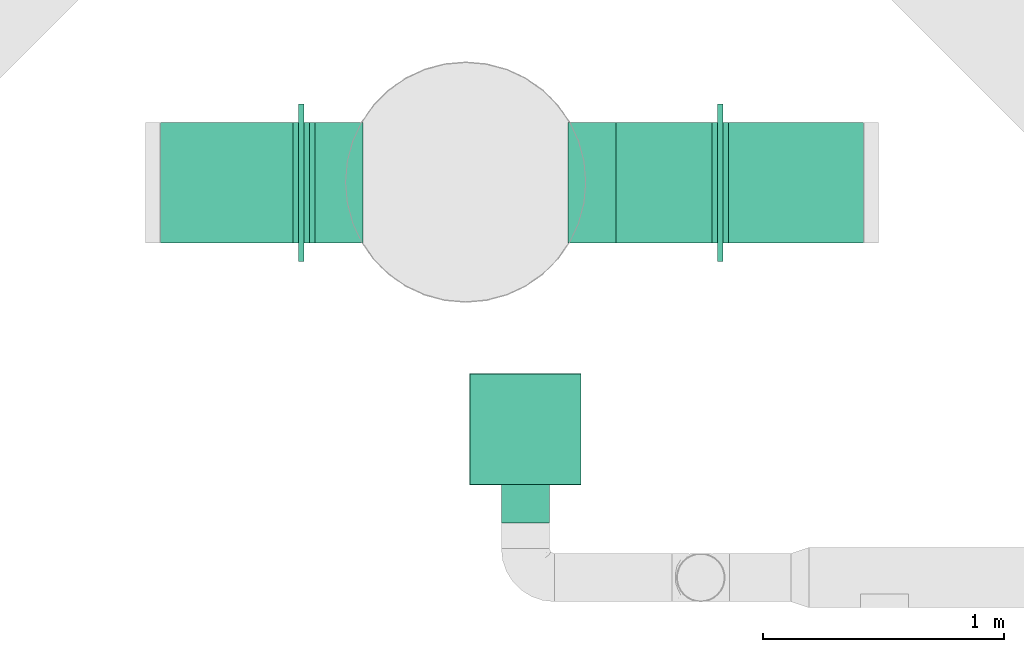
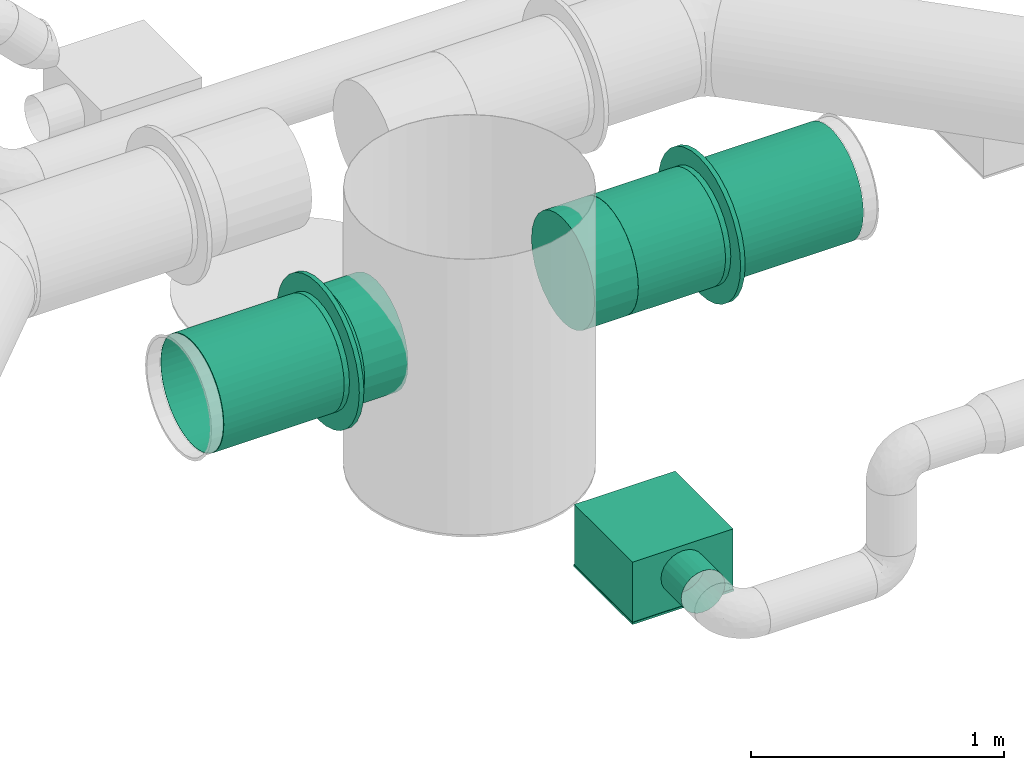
# One storey, part 9 of 31: 4 flow segments, 2 flow controllers, 2 flow fittings, 1 flow terminal.
"""IFC2X3 building model written with IfcOpenShell, lengths in millimetres."""

import ifcopenshell
import ifcopenshell.guid

model = None  # the IFC model being written
_history = None  # IfcOwnerHistory: only IFC2X3 demands one
_inside = {}  # id of a spatial element -> (the spatial element, [elements in it])
_under = {}  # id of a project, library or spatial element -> (it, [spatial elements below it])
_declared = {}  # id of a project -> (the project, [libraries it declares])
_typed = {}  # id of a type object -> (the type object, [elements of that type])
_made_of = {}  # id of a material, layer set ... -> (it, [elements and type objects made of it])


def new_model(schema):
    """Start an empty IFC model of exactly this schema.

    Asked for "IFC4X3", IfcOpenShell would pick the latest addendum, in which some entities
    have other attributes; the version numbers below select the first issue.
    IFC2X3 requires an IfcOwnerHistory on every rooted entity: one is made here for all.
    """
    global model, _history
    if schema == "IFC4X3":
        model = ifcopenshell.file(schema_version=(4, 3, 0, 0))
    else:
        model = ifcopenshell.file(schema=schema)
    _inside.clear()
    _under.clear()
    _declared.clear()
    _typed.clear()
    _made_of.clear()
    _history = None
    if model.schema == "IFC2X3":
        org = make("IfcOrganization", Name="unknown")
        user = make(
            "IfcPersonAndOrganization",
            ThePerson=make("IfcPerson", FamilyName="unknown"),
            TheOrganization=org,
        )
        app = make(
            "IfcApplication",
            ApplicationDeveloper=org,
            Version="unknown",
            ApplicationFullName="unknown",
            ApplicationIdentifier="unknown",
        )
        _history = make(
            "IfcOwnerHistory",
            OwningUser=user,
            OwningApplication=app,
            ChangeAction="ADDED",
            CreationDate=0,
        )
    return model


def make(cls, **values):
    """One entity of the class cls with the attributes given. An attribute that is None is left unset."""
    return model.create_entity(
        cls, **{name: value for name, value in values.items() if value is not None}
    )


def entity(cls, *values):
    """Any entity or typed value of the class cls, its attributes in the order of the schema. None: left unset."""
    e = model.create_entity(cls)
    for i, value in enumerate(values):
        if value is not None:
            e[i] = value
    return e


def rooted(cls, **values):
    """An entity with a GlobalId (a new one), such as an element, a storey or a relation."""
    return make(cls, GlobalId=ifcopenshell.guid.new(), OwnerHistory=_history, **values)


def si_unit(unit_type, name, prefix=None):
    """IfcSIUnit, for example si_unit("LENGTHUNIT", "METRE", prefix="MILLI")."""
    return make("IfcSIUnit", UnitType=unit_type, Prefix=prefix, Name=name)


def converted_unit(unit_type, name, factor, base, dimensions=None, offset=None):
    """IfcConversionBasedUnit, such as the inch: factor (a typed value) times the base unit."""
    return make(
        "IfcConversionBasedUnit"
        if offset is None
        else "IfcConversionBasedUnitWithOffset",
        ConversionOffset=offset,
        Dimensions=None
        if dimensions is None
        else entity("IfcDimensionalExponents", *dimensions),
        UnitType=unit_type,
        Name=name,
        ConversionFactor=make(
            "IfcMeasureWithUnit", ValueComponent=factor, UnitComponent=base
        ),
    )


def derived_unit(unit_type, elements):
    """IfcDerivedUnit: a product of units, each with its exponent."""
    return make(
        "IfcDerivedUnit",
        Elements=[
            make("IfcDerivedUnitElement", Unit=unit, Exponent=power)
            for unit, power in elements
        ],
        UnitType=unit_type,
    )


def assignment(units):
    """IfcUnitAssignment: the units of a project."""
    return None if units is None else make("IfcUnitAssignment", Units=units)


def point(xyz):
    """IfcCartesianPoint."""
    return None if xyz is None else make("IfcCartesianPoint", Coordinates=xyz)


def direction(xyz):
    """IfcDirection."""
    return None if xyz is None else make("IfcDirection", DirectionRatios=xyz)


def frame(location, z_axis=None, x_axis=None):
    """IfcAxis2Placement3D, a coordinate frame: its origin and axes. An axis left out is left unset."""
    return make(
        "IfcAxis2Placement3D",
        Location=point(location),
        Axis=direction(z_axis),
        RefDirection=direction(x_axis),
    )


def frame_2d(location, x_axis=None):
    """IfcAxis2Placement2D, a coordinate frame in the plane: its origin and x axis."""
    return make(
        "IfcAxis2Placement2D", Location=point(location), RefDirection=direction(x_axis)
    )


def origin_with_axes():
    """The frame at (0, 0, 0) with the z axis (0, 0, 1) and the x axis (1, 0, 0) written out."""
    return frame((0.0, 0.0, 0.0), z_axis=(0.0, 0.0, 1.0), x_axis=(1.0, 0.0, 0.0))


def origin_2d_with_axis():
    """The frame at (0, 0) in the plane with the x axis (1, 0) written out."""
    return frame_2d((0.0, 0.0), x_axis=(1.0, 0.0))


def place(relative_to, where):
    """IfcLocalPlacement: puts the frame where relative to a parent placement (None: the world)."""
    return make(
        "IfcLocalPlacement", PlacementRelTo=relative_to, RelativePlacement=where
    )


def context(
    kind, dimensions, precision=None, world=None, true_north=None, identifier=None
):
    """IfcGeometricRepresentationContext, for example the 3D "Model" context."""
    return make(
        "IfcGeometricRepresentationContext",
        ContextIdentifier=identifier,
        ContextType=kind,
        CoordinateSpaceDimension=dimensions,
        Precision=precision,
        WorldCoordinateSystem=world,
        TrueNorth=true_north,
    )


def subcontext(parent, identifier, kind, view, scale=None):
    """IfcGeometricRepresentationSubContext, for example "Body" below "Model"."""
    return make(
        "IfcGeometricRepresentationSubContext",
        ContextIdentifier=identifier,
        ContextType=kind,
        ParentContext=parent,
        TargetScale=scale,
        TargetView=view,
    )


def project(units=None, contexts=None):
    """IfcProject with its units and contexts."""
    return rooted(
        "IfcProject",
        Name="project",
        RepresentationContexts=contexts,
        UnitsInContext=assignment(units),
    )


def spatial(cls, under=None, at=None, **own):
    """A site, building, storey or space (cls), placed at a placement, below another one or the project."""
    s = rooted(cls, ObjectPlacement=at, **own)
    if under is not None:
        _under.setdefault(under.id(), (under, []))[1].append(s)
    return s


def profile(cls, at=None, kind="AREA", **sizes):
    """A parametric profile (cls). Its sizes go by their IFC names, for example OverallWidth=200.0."""
    return make(cls, ProfileType=kind, Position=at, **sizes)


def hollow_circle(**sizes):
    """IfcCircleHollowProfileDef."""
    return profile("IfcCircleHollowProfileDef", **sizes)


def extrude(swept, where, along, depth):
    """IfcExtrudedAreaSolid: the profile swept, set in the frame where, extruded along a direction by depth."""
    return make(
        "IfcExtrudedAreaSolid",
        SweptArea=swept,
        Position=where,
        ExtrudedDirection=direction(along),
        Depth=depth,
    )


def faces_of(points, faces, orient=None, outer=None):
    """IfcFace entities. A face is a list of loops; a loop is a list of indices into points, from 0.

    orient and outer hold one flag for each loop. By default every Orientation is true, the
    first loop of a face is its IfcFaceOuterBound and the others are IfcFaceBound.
    """
    made = []
    for i, loops in enumerate(faces):
        bounds = []
        for j, loop in enumerate(loops):
            is_outer = j == 0 if outer is None else outer[i][j]
            bounds.append(
                make(
                    "IfcFaceOuterBound" if is_outer else "IfcFaceBound",
                    Bound=make("IfcPolyLoop", Polygon=[points[k] for k in loop]),
                    Orientation=True if orient is None else orient[i][j],
                )
            )
        made.append(make("IfcFace", Bounds=bounds))
    return made


def open_shell(faces, orient=None, outer=None):
    """The faces of one IfcOpenShell. surface_model builds it on its shared points."""
    return ("IfcOpenShell", faces, orient, outer)


def surface_model(cls, points, shells):
    """IfcFaceBasedSurfaceModel or IfcShellBasedSurfaceModel (cls): surfaces that need not close."""
    shared = [point(p) for p in points]
    made = [make(c, CfsFaces=faces_of(shared, fs, o, b)) for c, fs, o, b in shells]
    if cls == "IfcFaceBasedSurfaceModel":
        return make(cls, FbsmFaces=made)
    return make(cls, SbsmBoundary=made)


def shape(context_of_items, identifier, shape_type, items):
    """IfcShapeRepresentation: the items that make up one representation, for example the "Body"."""
    return make(
        "IfcShapeRepresentation",
        ContextOfItems=context_of_items,
        RepresentationIdentifier=identifier,
        RepresentationType=shape_type,
        Items=items,
    )


def source(mapping_origin, context_of_items, identifier, shape_type, items):
    """IfcRepresentationMap: a shape defined once, which mapped items show again and again."""
    return make(
        "IfcRepresentationMap",
        MappingOrigin=mapping_origin,
        MappedRepresentation=shape(context_of_items, identifier, shape_type, items),
    )


def transform(
    local_origin,
    x_axis=None,
    y_axis=None,
    z_axis=None,
    scale=None,
    scale2=None,
    scale3=None,
    uniform=True,
):
    """IfcCartesianTransformationOperator3D, or its non-uniform kind. x_axis, y_axis, z_axis: its Axis1, 2, 3."""
    if uniform:
        return make(
            "IfcCartesianTransformationOperator3D",
            Axis1=direction(x_axis),
            Axis2=direction(y_axis),
            LocalOrigin=point(local_origin),
            Scale=scale,
            Axis3=direction(z_axis),
        )
    return make(
        "IfcCartesianTransformationOperator3DnonUniform",
        Axis1=direction(x_axis),
        Axis2=direction(y_axis),
        LocalOrigin=point(local_origin),
        Scale=scale,
        Axis3=direction(z_axis),
        Scale2=scale2,
        Scale3=scale3,
    )


def mapped(mapping_source, mapping_target):
    """IfcMappedItem: shows the shape of a source again, moved by a transform."""
    return make(
        "IfcMappedItem", MappingSource=mapping_source, MappingTarget=mapping_target
    )


def made_of(thing, what):
    """Note that an element or type object is made of a material, layer set ...; save() writes the relation."""
    if what is not None:
        _made_of.setdefault(what.id(), (what, []))[1].append(thing)
    return thing


def type_object(cls, material=None, **own):
    """A type object (cls), such as IfcWallType, which elements share."""
    return made_of(rooted(cls, **own), material)


def element(
    cls,
    number,
    at=None,
    inside=None,
    cuts=None,
    type_object=None,
    material=None,
    context=None,
    identifier="Body",
    shape_type=None,
    held_by="IfcProductDefinitionShape",
    body=None,
    shapes=None,
    **own,
):
    """One element of the class cls, such as IfcWall. Its Tag is "e" and its number.

    at: its placement. inside: the storey or other place that contains it. cuts: it is an
    opening in that element (IfcRelVoidsElement). A single representation is given by context,
    identifier, shape_type and body (its items); several are given by shapes. held_by: the class
    of the entity that holds the representations. save() writes the other relations.
    """
    e = rooted(cls, Tag="e%d" % number, ObjectPlacement=at, **own)
    if body is not None:
        shapes = [shape(context, identifier, shape_type, body)]
    if shapes is not None:
        e.Representation = make(held_by, Representations=shapes)
    if inside is not None:
        _inside.setdefault(inside.id(), (inside, []))[1].append(e)
    if cuts is not None:
        rooted(
            "IfcRelVoidsElement", RelatingBuildingElement=cuts, RelatedOpeningElement=e
        )
    if type_object is not None:
        _typed.setdefault(type_object.id(), (type_object, []))[1].append(e)
    return made_of(e, material)


def aggregate(whole, parts):
    """IfcRelAggregates: a whole, such as a stair, and the parts it consists of."""
    return rooted("IfcRelAggregates", RelatingObject=whole, RelatedObjects=parts)


def save(model, path):
    """Write the relations noted so far, then the file.

    IfcRelAggregates (storeys below a building ...), IfcRelContainedInSpatialStructure (elements
    in a storey), IfcRelDefinesByType, IfcRelAssociatesMaterial and IfcRelDeclares: one each for
    every whole, place, type object, material and project.
    """
    for whole, parts in _under.values():
        aggregate(whole, parts)
    for where, things in _inside.values():
        rooted(
            "IfcRelContainedInSpatialStructure",
            RelatedElements=things,
            RelatingStructure=where,
        )
    for kind, things in _typed.values():
        rooted("IfcRelDefinesByType", RelatedObjects=things, RelatingType=kind)
    for what, things in _made_of.values():
        rooted("IfcRelAssociatesMaterial", RelatedObjects=things, RelatingMaterial=what)
    for by, libraries in _declared.values():
        rooted("IfcRelDeclares", RelatingContext=by, RelatedDefinitions=libraries)
    model.write(path)


model = new_model("IFC2X3")

# Units and contexts
model_context = context("Model", 3, precision=0.01, world=frame((0.0, 4.29681676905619e-09, 0.0)), true_north=direction((4.01073788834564e-13, 1.0)))
plan_context = context("Plan", 3, precision=0.01, world=frame((0.0, 4.29681676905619e-09, 0.0)), true_north=direction((4.01073788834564e-13, 1.0)))
body_context = subcontext(model_context, "Body", "Model", "MODEL_VIEW")
ifc_project = project(units=[converted_unit("PLANEANGLEUNIT", "DEGREE", entity("IfcPositiveLengthMeasure", 0.0174532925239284), si_unit("PLANEANGLEUNIT", "RADIAN"), dimensions=[0, 0, 0, 0, 0, 0, 0]), si_unit("AREAUNIT", "SQUARE_METRE"), si_unit("LENGTHUNIT", "METRE", prefix="MILLI"), si_unit("MASSUNIT", "GRAM", prefix="KILO"), si_unit("POWERUNIT", "WATT"), si_unit("PRESSUREUNIT", "PASCAL", prefix="KILO"), si_unit("FORCEUNIT", "NEWTON", prefix="KILO"), si_unit("ELECTRICVOLTAGEUNIT", "VOLT"), si_unit("ELECTRICCURRENTUNIT", "AMPERE"), si_unit("THERMODYNAMICTEMPERATUREUNIT", "DEGREE_CELSIUS"), si_unit("TIMEUNIT", "SECOND"), si_unit("VOLUMEUNIT", "CUBIC_METRE"), derived_unit("LINEARVELOCITYUNIT", [(si_unit("LENGTHUNIT", "METRE"), 1), (si_unit("TIMEUNIT", "SECOND"), -1)]), derived_unit("VOLUMETRICFLOWRATEUNIT", [(si_unit("VOLUMEUNIT", "CUBIC_METRE"), 1), (si_unit("TIMEUNIT", "SECOND"), -1)]), derived_unit("THERMALTRANSMITTANCEUNIT", [(si_unit("POWERUNIT", "WATT"), 1), (si_unit("THERMODYNAMICTEMPERATUREUNIT", "KELVIN"), -1), (si_unit("AREAUNIT", "SQUARE_METRE"), -1)]), derived_unit("SOUNDPRESSUREUNIT", [(si_unit("PRESSUREUNIT", "PASCAL"), 1)])], contexts=[model_context, plan_context])

# Site, building, storey
site_placement = place(None, frame((0.0, -4.29681676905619e-09, 0.0), z_axis=(0.0, 0.0, 1.0), x_axis=(1.0, 0.0, 0.0)))
site = spatial("IfcSite", under=ifc_project, at=site_placement, CompositionType="ELEMENT")
building_placement = place(site_placement, frame((0.0, 4.29681676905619e-09, 0.0), z_axis=(0.0, 0.0, 1.0), x_axis=(1.0, 0.0, 0.0)))
building = spatial("IfcBuilding", under=site, at=building_placement, Name="mc-building", CompositionType="ELEMENT")
storey_placement = place(building_placement, frame((0.0, 0.0, 210900.0), z_axis=(0.0, 0.0, 1.0), x_axis=(1.0, 0.0, 0.0)))
storey = spatial("IfcBuildingStorey", under=building, at=storey_placement, Name="Nivå F", CompositionType="ELEMENT", Elevation=210900.0)

# Flow controllers
damper_type = type_object("IfcDamperType", Name="IRIS-050", PredefinedType="BALANCINGDAMPER")
shared_shape_1 = source(origin_with_axes(), body_context, "Body", "SurfaceModel", [
    surface_model("IfcShellBasedSurfaceModel", [(35.0, 225.24221, -108.47093), (35.0, 55.63023, -243.73198), (35.0, 108.47093, -225.24221), (35.0, 155.87244, -195.45787), (35.0, 243.73198, -55.63023), (35.0, 250.0, 0.0), (35.0, -225.24221, -108.47093), (35.0, 195.45787, -155.87244), (35.0, -55.63023, -243.73198), (35.0, -155.87244, -195.45787), (35.0, -108.47093, -225.24221), (35.0, 0.0, -250.0), (35.0, -195.45787, -155.87244), (35.0, -243.73198, -55.63023), (35.0, 243.73198, 55.63023), (35.0, 225.24221, 108.47093), (35.0, 195.45787, 155.87244), (35.0, 155.87244, 195.45787), (35.0, 108.47093, 225.24221), (35.0, -195.45787, 155.87244), (35.0, 55.63023, 243.73198), (35.0, 0.0, 250.0), (35.0, -55.63023, 243.73198), (35.0, -250.0, 0.0), (35.0, -225.24221, 108.47093), (35.0, -243.73198, 55.63023), (35.0, -108.47093, 225.24221), (35.0, -155.87244, 195.45787), (10.5, 0.0, 250.0), (10.5, 55.63023, 243.73198), (10.5, 108.47093, 225.24221), (10.5, -108.47093, 225.24221), (10.5, 225.24221, 108.47093), (10.5, 243.73198, 55.63023), (10.5, 195.45787, 155.87244), (10.5, 155.87244, 195.45787), (10.5, -225.24221, 108.47093), (10.5, -250.0, 0.0), (10.5, -195.45787, 155.87244), (10.5, -155.87244, 195.45787), (10.5, -55.63023, 243.73198), (10.5, -243.73198, 55.63023), (10.5, 250.0, 0.0), (10.5, 243.73198, -55.63023), (10.5, 225.24221, -108.47093), (10.5, -225.24221, -108.47093), (10.5, 155.87244, -195.45787), (10.5, 108.47093, -225.24221), (10.5, 55.63023, -243.73198), (10.5, 195.45787, -155.87244), (10.5, 0.0, -250.0), (10.5, -155.87244, -195.45787), (10.5, -195.45787, -155.87244), (10.5, -243.73198, -55.63023), (10.5, -55.63023, -243.73198), (10.5, -108.47093, -225.24221), (10.5, 63.89208, -321.20717), (10.5, 181.94925, -272.30629), (10.5, 272.30629, -181.94925), (10.5, 125.32882, -302.57054), (10.5, 231.57747, -231.57747), (10.5, 302.57054, -125.32882), (10.5, 321.20717, -63.89208), (10.5, 231.57747, 231.57747), (10.5, -181.94925, -272.30629), (10.5, 0.0, -327.5), (10.5, -63.89208, -321.20717), (10.5, -125.32882, -302.57054), (10.5, -272.30629, -181.94925), (10.5, -231.57747, -231.57747), (10.5, -302.57054, -125.32882), (10.5, -321.20717, 63.89208), (10.5, -327.5, 0.0), (10.5, -321.20717, -63.89208), (10.5, 327.5, 0.0), (10.5, 302.57054, 125.32882), (10.5, 272.30629, 181.94925), (10.5, 125.32882, 302.57054), (10.5, 63.89208, 321.20717), (10.5, 181.94925, 272.30629), (10.5, 0.0, 327.5), (10.5, -272.30629, 181.94925), (10.5, -302.57054, 125.32882), (10.5, -125.32882, 302.57054), (10.5, -231.57747, 231.57747), (10.5, -181.94925, 272.30629), (10.5, -63.89208, 321.20717), (10.5, 321.20717, 63.89208), (-10.5, 63.89208, 321.20717), (-10.5, 125.32882, 302.57054), (-10.5, 321.20717, 63.89208), (-10.5, -63.89208, 321.20717), (-10.5, 0.0, 327.5), (-10.5, 231.57747, 231.57747), (-10.5, 181.94925, 272.30629), (-10.5, 302.57054, 125.32882), (-10.5, 272.30629, 181.94925), (-10.5, -321.20717, 63.89208), (-10.5, -231.57747, 231.57747), (-10.5, -125.32882, 302.57054), (-10.5, -272.30629, 181.94925), (-10.5, -181.94925, 272.30629), (-10.5, -302.57054, 125.32882), (-10.5, -231.57747, -231.57747), (-10.5, -327.5, 0.0), (-10.5, 327.5, 0.0), (-10.5, 321.20717, -63.89208), (-10.5, 302.57054, -125.32882), (-10.5, -181.94925, -272.30629), (-10.5, 181.94925, -272.30629), (-10.5, 272.30629, -181.94925), (-10.5, 63.89208, -321.20717), (-10.5, 125.32882, -302.57054), (-10.5, 231.57747, -231.57747), (-10.5, -272.30629, -181.94925), (-10.5, -302.57054, -125.32882), (-10.5, -321.20717, -63.89208), (-10.5, -63.89208, -321.20717), (-10.5, -125.32882, -302.57054), (-10.5, 0.0, -327.5), (-10.5, 225.24221, -108.47093), (-10.5, 55.63023, -243.73198), (-10.5, 108.47093, -225.24221), (-10.5, 155.87244, -195.45787), (-10.5, 243.73198, -55.63023), (-10.5, 250.0, 0.0), (-10.5, -225.24221, -108.47093), (-10.5, 195.45787, -155.87244), (-10.5, -55.63023, -243.73198), (-10.5, -155.87244, -195.45787), (-10.5, -108.47093, -225.24221), (-10.5, 0.0, -250.0), (-10.5, -195.45787, -155.87244), (-10.5, -243.73198, -55.63023), (-10.5, 243.73198, 55.63023), (-10.5, 225.24221, 108.47093), (-10.5, 195.45787, 155.87244), (-10.5, 155.87244, 195.45787), (-10.5, 108.47093, 225.24221), (-10.5, -195.45787, 155.87244), (-10.5, 55.63023, 243.73198), (-10.5, 0.0, 250.0), (-10.5, -55.63023, 243.73198), (-10.5, -250.0, 0.0), (-10.5, -225.24221, 108.47093), (-10.5, -243.73198, 55.63023), (-10.5, -108.47093, 225.24221), (-10.5, -155.87244, 195.45787), (-35.0, 0.0, 250.0), (-35.0, 55.63023, 243.73198), (-35.0, 108.47093, 225.24221), (-35.0, -108.47093, 225.24221), (-35.0, 225.24221, 108.47093), (-35.0, 243.73198, 55.63023), (-35.0, 195.45787, 155.87244), (-35.0, 155.87244, 195.45787), (-35.0, -225.24221, 108.47093), (-35.0, -250.0, 0.0), (-35.0, -195.45787, 155.87244), (-35.0, -155.87244, 195.45787), (-35.0, -55.63023, 243.73198), (-35.0, -243.73198, 55.63023), (-35.0, 250.0, 0.0), (-35.0, 243.73198, -55.63023), (-35.0, 225.24221, -108.47093), (-35.0, -225.24221, -108.47093), (-35.0, 155.87244, -195.45787), (-35.0, 108.47093, -225.24221), (-35.0, 55.63023, -243.73198), (-35.0, 195.45787, -155.87244), (-35.0, 0.0, -250.0), (-35.0, -155.87244, -195.45787), (-35.0, -195.45787, -155.87244), (-35.0, -243.73198, -55.63023), (-35.0, -55.63023, -243.73198), (-35.0, -108.47093, -225.24221)], [open_shell([[[0, 1, 2]], [[0, 2, 3]], [[4, 5, 0]], [[1, 0, 6]], [[3, 7, 0]], [[6, 0, 5]], [[8, 9, 10]], [[9, 8, 11]], [[12, 9, 6]], [[6, 9, 11]], [[1, 6, 11]], [[5, 13, 6]], [[5, 14, 13]], [[14, 15, 16]], [[14, 16, 17]], [[14, 18, 19]], [[20, 21, 18]], [[18, 14, 17]], [[22, 18, 21]], [[23, 24, 25]], [[13, 24, 23]], [[26, 19, 18]], [[27, 19, 26]], [[24, 14, 19]], [[22, 26, 18]], [[24, 13, 14]], [[28, 29, 30]], [[31, 28, 30]], [[32, 33, 34]], [[35, 34, 33]], [[30, 35, 36]], [[37, 35, 33]], [[31, 38, 39]], [[31, 40, 28]], [[38, 30, 36]], [[37, 41, 36]], [[30, 38, 31]], [[37, 36, 35]], [[33, 42, 37]], [[42, 43, 44]], [[45, 42, 44]], [[46, 47, 44]], [[48, 44, 47]], [[44, 49, 46]], [[50, 44, 48]], [[45, 51, 52]], [[53, 37, 45]], [[50, 54, 51]], [[55, 51, 54]], [[50, 51, 45]], [[44, 50, 45]], [[45, 37, 42]], [[53, 13, 37]], [[45, 6, 53]], [[9, 52, 51]], [[51, 55, 10]], [[45, 52, 12]], [[54, 8, 55]], [[12, 6, 45]], [[6, 13, 53]], [[13, 23, 37]], [[8, 10, 55]], [[9, 51, 10]], [[9, 12, 52]], [[8, 54, 11]], [[54, 50, 11]], [[50, 48, 1]], [[44, 43, 0]], [[7, 49, 44]], [[46, 49, 3]], [[4, 43, 42]], [[2, 47, 3]], [[2, 1, 48]], [[46, 3, 47]], [[2, 48, 47]], [[49, 7, 3]], [[44, 0, 7]], [[4, 0, 43]], [[42, 5, 4]], [[50, 1, 11]], [[33, 14, 42]], [[32, 15, 33]], [[17, 34, 35]], [[35, 30, 18]], [[32, 34, 16]], [[29, 20, 30]], [[16, 15, 32]], [[15, 14, 33]], [[14, 5, 42]], [[20, 18, 30]], [[17, 35, 18]], [[17, 16, 34]], [[20, 29, 21]], [[29, 28, 21]], [[26, 31, 39]], [[36, 41, 24]], [[19, 38, 36]], [[27, 39, 38]], [[37, 25, 41]], [[22, 21, 40]], [[40, 31, 22]], [[22, 31, 26]], [[27, 26, 39]], [[38, 19, 27]], [[36, 24, 19]], [[25, 24, 41]], [[37, 23, 25]], [[40, 21, 28]], [[56, 57, 58]], [[56, 59, 57]], [[57, 60, 58]], [[61, 62, 63]], [[56, 61, 64]], [[56, 58, 61]], [[63, 64, 61]], [[65, 56, 66]], [[64, 67, 66]], [[64, 66, 56]], [[68, 69, 70]], [[71, 69, 64]], [[72, 70, 69]], [[72, 73, 70]], [[63, 62, 74]], [[75, 76, 74]], [[63, 74, 76]], [[64, 63, 71]], [[77, 78, 63]], [[78, 71, 63]], [[63, 79, 77]], [[80, 71, 78]], [[81, 82, 71]], [[81, 71, 83]], [[72, 69, 71]], [[83, 84, 81]], [[85, 84, 83]], [[83, 71, 86]], [[80, 86, 71]], [[75, 74, 87]], [[88, 89, 90]], [[88, 91, 92]], [[93, 89, 94]], [[95, 90, 93]], [[93, 96, 95]], [[90, 89, 93]], [[97, 88, 90]], [[98, 99, 100]], [[98, 101, 99]], [[91, 88, 99]], [[102, 100, 97]], [[97, 100, 99]], [[97, 99, 88]], [[97, 103, 104]], [[97, 90, 105]], [[105, 106, 107]], [[108, 105, 107]], [[109, 107, 110]], [[109, 111, 107]], [[112, 111, 109]], [[109, 110, 113]], [[108, 107, 111]], [[103, 114, 115]], [[104, 103, 115]], [[116, 104, 115]], [[117, 108, 111]], [[118, 108, 117]], [[108, 103, 97]], [[119, 117, 111]], [[105, 108, 97]], [[116, 73, 104]], [[70, 116, 115]], [[115, 114, 68]], [[64, 103, 108]], [[118, 67, 108]], [[114, 103, 69]], [[68, 70, 115]], [[70, 73, 116]], [[73, 72, 104]], [[65, 66, 117]], [[66, 67, 118]], [[64, 69, 103]], [[108, 67, 64]], [[69, 68, 114]], [[118, 117, 66]], [[117, 119, 65]], [[59, 112, 109]], [[56, 111, 112]], [[57, 109, 113]], [[107, 106, 61]], [[58, 110, 107]], [[60, 113, 110]], [[62, 106, 105]], [[65, 111, 56]], [[56, 112, 59]], [[57, 59, 109]], [[113, 60, 57]], [[60, 110, 58]], [[61, 58, 107]], [[62, 61, 106]], [[105, 74, 62]], [[111, 65, 119]], [[90, 87, 105]], [[75, 90, 95]], [[95, 96, 76]], [[79, 93, 94]], [[94, 89, 77]], [[96, 93, 63]], [[89, 88, 78]], [[76, 75, 95]], [[75, 87, 90]], [[87, 74, 105]], [[78, 92, 80]], [[78, 77, 89]], [[79, 63, 93]], [[94, 77, 79]], [[63, 76, 96]], [[88, 92, 78]], [[83, 99, 101]], [[86, 91, 99]], [[85, 101, 98]], [[102, 97, 82]], [[81, 100, 102]], [[84, 98, 100]], [[71, 97, 104]], [[101, 85, 83]], [[83, 86, 99]], [[80, 91, 86]], [[98, 84, 85]], [[100, 81, 84]], [[82, 81, 102]], [[71, 82, 97]], [[104, 72, 71]], [[91, 80, 92]], [[120, 121, 122]], [[120, 122, 123]], [[124, 125, 120]], [[121, 120, 126]], [[123, 127, 120]], [[126, 120, 125]], [[128, 129, 130]], [[129, 128, 131]], [[132, 129, 126]], [[126, 129, 131]], [[121, 126, 131]], [[125, 133, 126]], [[125, 134, 133]], [[134, 135, 136]], [[134, 136, 137]], [[134, 138, 139]], [[140, 141, 138]], [[138, 134, 137]], [[142, 138, 141]], [[143, 144, 145]], [[133, 144, 143]], [[146, 139, 138]], [[147, 139, 146]], [[144, 134, 139]], [[142, 146, 138]], [[144, 133, 134]], [[148, 149, 150]], [[151, 148, 150]], [[152, 153, 154]], [[155, 154, 153]], [[150, 155, 156]], [[157, 155, 153]], [[151, 158, 159]], [[151, 160, 148]], [[158, 150, 156]], [[157, 161, 156]], [[150, 158, 151]], [[157, 156, 155]], [[153, 162, 157]], [[162, 163, 164]], [[165, 162, 164]], [[166, 167, 164]], [[168, 164, 167]], [[164, 169, 166]], [[170, 164, 168]], [[165, 171, 172]], [[173, 157, 165]], [[170, 174, 171]], [[175, 171, 174]], [[170, 171, 165]], [[164, 170, 165]], [[165, 157, 162]], [[173, 133, 157]], [[165, 126, 173]], [[129, 172, 171]], [[171, 175, 130]], [[165, 172, 132]], [[174, 128, 175]], [[132, 126, 165]], [[126, 133, 173]], [[133, 143, 157]], [[128, 130, 175]], [[129, 171, 130]], [[129, 132, 172]], [[128, 174, 131]], [[174, 170, 131]], [[170, 168, 121]], [[164, 163, 120]], [[127, 169, 164]], [[166, 169, 123]], [[124, 163, 162]], [[122, 167, 123]], [[122, 121, 168]], [[166, 123, 167]], [[122, 168, 167]], [[169, 127, 123]], [[164, 120, 127]], [[124, 120, 163]], [[162, 125, 124]], [[170, 121, 131]], [[153, 134, 162]], [[152, 135, 153]], [[137, 154, 155]], [[155, 150, 138]], [[152, 154, 136]], [[149, 140, 150]], [[136, 135, 152]], [[135, 134, 153]], [[134, 125, 162]], [[140, 138, 150]], [[137, 155, 138]], [[137, 136, 154]], [[140, 149, 141]], [[149, 148, 141]], [[146, 151, 159]], [[156, 161, 144]], [[139, 158, 156]], [[147, 159, 158]], [[157, 145, 161]], [[142, 141, 160]], [[160, 151, 142]], [[142, 151, 146]], [[147, 146, 159]], [[158, 139, 147]], [[156, 144, 139]], [[145, 144, 161]], [[157, 143, 145]], [[160, 141, 148]]])]),
])
for number, where, z_axis, x_axis, name in (
    (1, (719278.48509, 439045.80698, 3950.0), (0.0, 0.0, 1.0), (-1.0, 0.0, 0.0), "IRIS-050"),
    (2, (721019.12741, 439045.81002, 3950.0), (0.0, 0.0, 1.0), (1.0, 0.0, 0.0), "IRIS-050"),
):
    element("IfcFlowController", number, at=place(storey_placement, frame(where, z_axis=z_axis, x_axis=x_axis)), inside=storey, type_object=damper_type, Name=name, context=body_context, shape_type="MappedRepresentation", body=[
        mapped(shared_shape_1, transform((0.0, 0.0, 0.0), scale=1.0)),
    ])

# Flow fittings
duct_fitting_type = type_object("IfcDuctFittingType", Name="magicirc_tapoutlet_001", PredefinedType="CONNECTOR")
shared_shape_2 = source(origin_with_axes(), body_context, "Body", "SurfaceModel", [
    surface_model("IfcShellBasedSurfaceModel", [(125.0, -55.63023, -243.73198), (125.0, -108.47093, -225.24221), (0.0, -55.63023, -243.73198), (0.0, 55.63023, -243.73198), (125.0, 108.47093, -225.24221), (125.0, 55.63023, -243.73198), (125.0, 250.0, 0.0), (125.0, 0.0, -250.0), (125.0, 195.45787, -155.87244), (125.0, 225.24221, -108.47093), (125.0, 155.87244, -195.45787), (125.0, -195.45787, -155.87244), (125.0, -243.73198, 55.63023), (125.0, -155.87244, -195.45787), (125.0, -225.24221, -108.47093), (125.0, -243.73198, -55.63023), (125.0, -250.0, 0.0), (125.0, 243.73198, -55.63023), (125.0, 243.73198, 55.63023), (125.0, 195.45787, 155.87244), (125.0, 225.24221, 108.47093), (125.0, 155.87244, 195.45787), (125.0, 108.47093, 225.24221), (125.0, 55.63023, 243.73198), (125.0, -195.45787, 155.87244), (125.0, -225.24221, 108.47093), (125.0, -155.87244, 195.45787), (125.0, -108.47093, 225.24221), (125.0, -55.63023, 243.73198), (125.0, 0.0, 250.0), (0.0, 55.63023, 243.73198), (0.0, 108.47093, 225.24221), (0.0, 155.87244, 195.45787), (0.0, 0.0, 250.0), (0.0, 195.45787, 155.87244), (0.0, 225.24221, 108.47093), (0.0, 243.73198, 55.63023), (0.0, 250.0, 0.0), (0.0, 195.45787, -155.87244), (0.0, 243.73198, -55.63023), (0.0, 225.24221, -108.47093), (0.0, 155.87244, -195.45787), (0.0, 108.47093, -225.24221), (0.0, 0.0, -250.0), (0.0, -155.87244, -195.45787), (0.0, -108.47093, -225.24221), (0.0, -195.45787, -155.87244), (0.0, -225.24221, -108.47093), (0.0, -243.73198, -55.63023), (0.0, -250.0, 0.0), (0.0, -243.73198, 55.63023), (0.0, -225.24221, 108.47093), (0.0, -195.45787, 155.87244), (0.0, -155.87244, 195.45787), (0.0, -108.47093, 225.24221), (0.0, -55.63023, 243.73198), (-74.43496, 0.0, -250.0), (-74.43496, -55.63023, -243.73198), (-74.43496, 55.63023, -243.73198), (-74.43496, 243.73198, 55.63023), (-74.43496, 108.47093, -225.24221), (-74.43496, 225.24221, -108.47093), (-74.43496, 195.45787, -155.87244), (-74.43496, 155.87244, -195.45787), (-74.43496, -250.0, 0.0), (-74.43496, -243.73198, 55.63023), (-74.43496, -108.47093, -225.24221), (-74.43496, -155.87244, -195.45787), (-74.43496, -195.45787, -155.87244), (-74.43496, -225.24221, -108.47093), (-74.43496, -243.73198, -55.63023), (-74.43496, 243.73198, -55.63023), (-74.43496, 195.45787, 155.87244), (-74.43496, 225.24221, 108.47093), (-74.43496, 108.47093, 225.24221), (-74.43496, 155.87244, 195.45787), (-74.43496, 55.63023, 243.73198), (-74.43496, 0.0, 250.0), (-74.43496, -195.45787, 155.87244), (-74.43496, -225.24221, 108.47093), (-74.43496, -108.47093, 225.24221), (-74.43496, -55.63023, 243.73198), (-74.43496, -155.87244, 195.45787), (-74.43496, 250.0, 0.0)], [open_shell([[[0, 1, 2]], [[3, 4, 5]], [[6, 7, 5]], [[4, 6, 5]], [[8, 9, 6]], [[8, 6, 10]], [[6, 4, 10]], [[11, 7, 12]], [[7, 13, 1]], [[1, 0, 7]], [[14, 11, 12]], [[7, 11, 13]], [[15, 14, 12]], [[15, 12, 16]], [[17, 6, 9]], [[7, 18, 19]], [[19, 18, 20]], [[19, 21, 22]], [[23, 7, 22]], [[7, 19, 22]], [[7, 23, 24]], [[24, 25, 7]], [[12, 7, 25]], [[26, 23, 27]], [[26, 24, 23]], [[28, 27, 23]], [[23, 29, 28]], [[6, 18, 7]], [[30, 29, 23]], [[31, 23, 22]], [[32, 22, 21]], [[33, 29, 30]], [[30, 23, 31]], [[22, 32, 31]], [[21, 34, 32]], [[35, 19, 20]], [[36, 20, 18]], [[37, 18, 6]], [[34, 19, 35]], [[35, 20, 36]], [[18, 37, 36]], [[19, 34, 21]], [[37, 6, 17]], [[9, 8, 38]], [[39, 17, 9]], [[37, 17, 39]], [[38, 40, 9]], [[9, 40, 39]], [[8, 41, 38]], [[42, 10, 4]], [[43, 5, 7]], [[41, 10, 42]], [[42, 4, 3]], [[5, 43, 3]], [[10, 41, 8]], [[7, 0, 2]], [[44, 1, 13]], [[2, 43, 7]], [[45, 2, 1]], [[1, 44, 45]], [[13, 46, 44]], [[47, 11, 14]], [[48, 14, 15]], [[49, 15, 16]], [[46, 11, 47]], [[47, 14, 48]], [[15, 49, 48]], [[11, 46, 13]], [[50, 16, 12]], [[51, 12, 25]], [[52, 25, 24]], [[49, 16, 50]], [[50, 12, 51]], [[25, 52, 51]], [[24, 53, 52]], [[54, 26, 27]], [[55, 27, 28]], [[33, 28, 29]], [[53, 26, 54]], [[54, 27, 55]], [[28, 33, 55]], [[26, 53, 24]], [[7, 5, 4]], [[18, 7, 4]], [[7, 1, 0]], [[13, 7, 11]], [[7, 22, 23]], [[24, 23, 26]], [[29, 28, 23]], [[18, 4, 6]], [[56, 57, 58]], [[58, 59, 60]], [[59, 61, 62]], [[63, 59, 62]], [[63, 60, 59]], [[58, 64, 65]], [[66, 67, 58]], [[58, 57, 66]], [[64, 68, 69]], [[69, 70, 64]], [[64, 67, 68]], [[58, 67, 64]], [[61, 59, 71]], [[72, 59, 58]], [[73, 59, 72]], [[74, 75, 72]], [[74, 58, 76]], [[72, 58, 74]], [[76, 58, 77]], [[78, 77, 79]], [[58, 65, 79]], [[80, 81, 77]], [[77, 82, 80]], [[78, 82, 77]], [[58, 79, 77]], [[83, 71, 59]], [[77, 33, 30]], [[30, 31, 76]], [[32, 74, 31]], [[77, 30, 76]], [[74, 76, 31]], [[75, 74, 32]], [[32, 34, 75]], [[72, 34, 35]], [[36, 37, 59]], [[59, 35, 36]], [[72, 35, 73]], [[83, 59, 37]], [[35, 59, 73]], [[34, 72, 75]], [[83, 37, 39]], [[39, 40, 71]], [[38, 61, 40]], [[83, 39, 71]], [[61, 71, 40]], [[62, 61, 38]], [[38, 63, 62]], [[63, 41, 42]], [[42, 3, 58]], [[43, 56, 3]], [[63, 42, 60]], [[60, 42, 58]], [[3, 56, 58]], [[41, 63, 38]], [[56, 43, 2]], [[2, 45, 57]], [[44, 66, 45]], [[56, 2, 57]], [[66, 57, 45]], [[67, 66, 44]], [[44, 46, 67]], [[46, 47, 69]], [[47, 48, 70]], [[64, 48, 49]], [[69, 68, 46]], [[70, 69, 47]], [[48, 64, 70]], [[46, 68, 67]], [[64, 49, 50]], [[50, 51, 65]], [[52, 79, 51]], [[64, 50, 65]], [[79, 65, 51]], [[78, 79, 52]], [[52, 53, 78]], [[53, 54, 82]], [[55, 33, 77]], [[54, 55, 80]], [[80, 82, 54]], [[77, 81, 55]], [[80, 55, 81]], [[53, 82, 78]], [[62, 63, 59]], [[59, 71, 61]]])]),
])
for number, where, z_axis, x_axis, name in (
    (3, (719461.48109, 439045.80698, 3950.0), (0.0, 1.0, 0.0), (-1.0, 0.0, 0.0), "magicirc_tapoutlet_001"),
    (4, (720461.47019, 439045.81002, 3950.0), (0.0, -1.0, 0.0), (1.0, 0.0, 0.0), "magicirc_tapoutlet_001"),
):
    element("IfcFlowFitting", number, at=place(storey_placement, frame(where, z_axis=z_axis, x_axis=x_axis)), inside=storey, type_object=duct_fitting_type, Name=name, context=body_context, shape_type="MappedRepresentation", body=[
        mapped(shared_shape_2, transform((0.0, 0.0, 0.0), scale=1.0)),
    ])

# Flow segments
duct_segment_type = type_object("IfcDuctSegmentType", Name="KK001T - Spiro kanaler, Forsinket stål", PredefinedType="RIGIDSEGMENT")
shared_shape_3 = source(origin_with_axes(), body_context, "Body", "SweptSolid", [
    extrude(hollow_circle(Radius=250.0, WallThickness=2.0, at=origin_2d_with_axis()), frame((0.0, 0.0, 0.0), z_axis=(1.0, 0.0, 0.0), x_axis=(0.0, 1.0, 0.0)), (0.0, 0.0, 1.0), 549.4),
])
flow_segment_1_placement = place(storey_placement, frame((719243.48509, 439045.80698, 3950.0), z_axis=(0.0, 0.0, 1.0), x_axis=(-1.0, 0.0, 0.0)))
element("IfcFlowSegment", 5, at=flow_segment_1_placement, inside=storey, type_object=duct_segment_type, Name="KK001T - Spiro kanaler, Forsinket stål", context=body_context, shape_type="MappedRepresentation", body=[
    mapped(shared_shape_3, transform((0.0, 0.0, 0.0), scale=1.0)),
])
shared_shape_4 = source(origin_with_axes(), body_context, "Body", "SweptSolid", [
    extrude(hollow_circle(Radius=250.0, WallThickness=2.0, at=origin_2d_with_axis()), frame((0.0, 0.0, 0.0), z_axis=(1.0, 0.0, 0.0), x_axis=(0.0, 1.0, 0.0)), (0.0, 0.0, 1.0), 23.0),
])
flow_segment_2_placement = place(storey_placement, frame((719336.48109, 439045.80698, 3950.0), z_axis=(0.0, 0.0, 1.0), x_axis=(-1.0, 0.0, 0.0)))
element("IfcFlowSegment", 6, at=flow_segment_2_placement, inside=storey, type_object=duct_segment_type, Name="KK001T - Spiro kanaler, Forsinket stål", context=body_context, shape_type="MappedRepresentation", body=[
    mapped(shared_shape_4, transform((0.0, 0.0, 0.0), scale=1.0)),
])
shared_shape_5 = source(origin_with_axes(), body_context, "Body", "SweptSolid", [
    extrude(hollow_circle(Radius=250.0, WallThickness=2.0, at=origin_2d_with_axis()), frame((0.0, 0.0, 0.0), z_axis=(1.0, 0.0, 0.0), x_axis=(0.0, 1.0, 0.0)), (0.0, 0.0, 1.0), 397.7),
])
flow_segment_3_placement = place(storey_placement, frame((720586.47019, 439045.81002, 3950.0), z_axis=(0.0, 0.0, 1.0), x_axis=(1.0, 0.0, 0.0)))
element("IfcFlowSegment", 7, at=flow_segment_3_placement, inside=storey, type_object=duct_segment_type, Name="KK001T - Spiro kanaler, Forsinket stål", context=body_context, shape_type="MappedRepresentation", body=[
    mapped(shared_shape_5, transform((0.0, 0.0, 0.0), scale=1.0)),
])
shared_shape_6 = source(origin_with_axes(), body_context, "Body", "SweptSolid", [
    extrude(hollow_circle(Radius=250.0, WallThickness=2.0, at=origin_2d_with_axis()), frame((0.0, 0.0, 0.0), z_axis=(1.0, 0.0, 0.0), x_axis=(0.0, 1.0, 0.0)), (0.0, 0.0, 1.0), 559.9),
])
flow_segment_4_placement = place(storey_placement, frame((721054.12741, 439045.81002, 3950.0), z_axis=(0.0, 0.0, 1.0), x_axis=(1.0, 0.0, 0.0)))
element("IfcFlowSegment", 8, at=flow_segment_4_placement, inside=storey, type_object=duct_segment_type, Name="KK001T - Spiro kanaler, Forsinket stål", context=body_context, shape_type="MappedRepresentation", body=[
    mapped(shared_shape_6, transform((0.0, 0.0, 0.0), scale=1.0)),
])

# Flow terminal
air_terminal_type = type_object("IfcAirTerminalType", Name="NS19-H-S-2-200 - 4-way", PredefinedType="NOTDEFINED")
shared_shape_7 = source(origin_with_axes(), body_context, "Body", "SurfaceModel", [
    surface_model("IfcShellBasedSurfaceModel", [(-231.99999, 231.99999, 0.0), (-231.99999, -231.99999, 0.0), (231.99999, -231.99999, 0.0), (231.99999, 231.99999, 0.0), (231.99999, 231.99999, -10.0), (231.99999, -231.99999, -10.0), (-231.99999, -231.99999, -10.0), (-231.99999, 231.99999, -10.0), (-230.0, 230.0, 289.99999), (-230.0, -230.0, 289.99999), (230.0, -230.0, 289.99999), (230.0, 230.0, 289.99999), (230.0, 230.0, 0.0), (230.0, -230.0, 0.0), (-230.0, -230.0, 0.0), (-230.0, 230.0, 0.0), (-230.0, 50.0, 78.39746), (-230.0, 70.71068, 94.28932), (-230.0, 49.9, 78.57067), (-230.0, 25.83014, 68.6006), (-230.0, 0.0, 65.2), (-230.0, 25.8819, 68.40742), (-230.0, 0.0, 65.0), (-230.0, 70.56926, 94.43075), (-230.0, 96.59259, 139.1181), (-230.0, 99.8, 164.99999), (-230.0, 96.39939, 139.16986), (-230.0, 100.0, 164.99999), (-230.0, 86.60254, 115.0), (-230.0, 86.42934, 115.1), (-230.0, -25.83014, 68.6006), (-230.0, -25.8819, 68.40742), (-230.0, -49.9, 78.57067), (-230.0, -70.71068, 94.28932), (-230.0, -50.0, 78.39746), (-230.0, -70.56926, 94.43075), (-230.0, -86.42934, 115.1), (-230.0, -86.60254, 115.0), (-230.0, -96.39939, 139.16986), (-230.0, -96.59259, 139.1181), (-230.0, -99.8, 164.99999), (-230.0, -100.0, 164.99999), (-230.0, 96.59259, 190.8819), (-230.0, 96.39939, 190.83014), (-230.0, 86.42934, 214.9), (-230.0, 86.60254, 214.99999), (-230.0, 70.56926, 235.56925), (-230.0, 70.71068, 235.71069), (-230.0, 50.0, 251.60254), (-230.0, 49.9, 251.42933), (-230.0, 25.83014, 261.3994), (-230.0, 25.8819, 261.59259), (-230.0, 0.0, 264.80001), (-230.0, 0.0, 264.99999), (-230.0, -86.60254, 214.99999), (-230.0, -86.42934, 214.9), (-230.0, -70.71068, 235.71069), (-230.0, -70.56926, 235.56925), (-230.0, -96.59259, 190.8819), (-230.0, -96.39939, 190.83014), (-230.0, -25.83014, 261.3994), (-230.0, -25.8819, 261.59259), (-230.0, -49.9, 251.42933), (-230.0, -50.0, 251.60254), (-390.0, 50.0, 251.60254), (-390.0, 70.71068, 235.71069), (-390.0, 49.9, 251.42933), (-390.0, 25.83014, 261.3994), (-390.0, 0.0, 264.80001), (-390.0, 25.8819, 261.59259), (-390.0, 0.0, 264.99999), (-390.0, 70.56926, 235.56925), (-390.0, 96.59259, 190.8819), (-390.0, 99.8, 164.99999), (-390.0, 96.39939, 190.83014), (-390.0, 100.0, 164.99999), (-390.0, 86.60254, 214.99999), (-390.0, 86.42934, 214.9), (-390.0, -25.83014, 261.3994), (-390.0, -25.8819, 261.59259), (-390.0, -49.9, 251.42933), (-390.0, -70.71068, 235.71069), (-390.0, -50.0, 251.60254), (-390.0, -70.56926, 235.56925), (-390.0, -86.42934, 214.9), (-390.0, -86.60254, 214.99999), (-390.0, -96.39939, 190.83014), (-390.0, -96.59259, 190.8819), (-390.0, -99.8, 164.99999), (-390.0, -100.0, 164.99999), (-390.0, 96.59259, 139.1181), (-390.0, 96.39939, 139.16986), (-390.0, 86.42934, 115.1), (-390.0, 86.60254, 115.0), (-390.0, 70.56926, 94.43075), (-390.0, 70.71068, 94.28932), (-390.0, 50.0, 78.39746), (-390.0, 49.9, 78.57067), (-390.0, 25.83014, 68.6006), (-390.0, 25.8819, 68.40742), (-390.0, 0.0, 65.2), (-390.0, 0.0, 65.0), (-390.0, -86.60254, 115.0), (-390.0, -86.42934, 115.1), (-390.0, -70.71068, 94.28932), (-390.0, -70.56926, 94.43075), (-390.0, -96.59259, 139.1181), (-390.0, -96.39939, 139.16986), (-390.0, -25.83014, 68.6006), (-390.0, -25.8819, 68.40742), (-390.0, -49.9, 78.57067), (-390.0, -50.0, 78.39746)], [open_shell([[[0, 1, 2]], [[2, 3, 0]], [[4, 5, 6]], [[6, 7, 4]], [[2, 1, 6]], [[6, 5, 2]], [[3, 2, 5]], [[5, 4, 3]], [[0, 3, 4]], [[4, 7, 0]], [[1, 0, 7]], [[7, 6, 1]], [[8, 9, 10]], [[10, 11, 8]], [[12, 13, 14]], [[14, 15, 12]], [[10, 9, 13]], [[14, 13, 9]], [[11, 10, 12]], [[13, 12, 10]], [[8, 11, 15]], [[12, 15, 11]], [[9, 8, 14]], [[15, 14, 8]], [[16, 17, 18]], [[16, 18, 19]], [[20, 21, 19]], [[21, 20, 22]], [[19, 21, 16]], [[18, 17, 23]], [[24, 25, 26]], [[25, 24, 27]], [[24, 26, 28]], [[23, 28, 29]], [[28, 23, 17]], [[29, 28, 26]], [[22, 30, 31]], [[31, 30, 32]], [[33, 34, 35]], [[32, 34, 31]], [[32, 35, 34]], [[22, 20, 30]], [[36, 37, 33]], [[37, 36, 38]], [[36, 33, 35]], [[39, 38, 40]], [[38, 39, 37]], [[39, 40, 41]], [[27, 42, 43]], [[43, 42, 44]], [[44, 45, 46]], [[45, 44, 42]], [[46, 45, 47]], [[47, 48, 49]], [[49, 48, 50]], [[50, 51, 52]], [[51, 50, 48]], [[52, 51, 53]], [[49, 46, 47]], [[54, 55, 56]], [[56, 55, 57]], [[55, 54, 58]], [[41, 59, 58]], [[58, 59, 55]], [[41, 40, 59]], [[60, 53, 61]], [[60, 61, 62]], [[57, 63, 56]], [[57, 62, 63]], [[63, 62, 61]], [[52, 53, 60]], [[43, 25, 27]], [[64, 65, 66]], [[64, 66, 67]], [[68, 69, 67]], [[69, 68, 70]], [[67, 69, 64]], [[66, 65, 71]], [[72, 73, 74]], [[73, 72, 75]], [[72, 74, 76]], [[71, 76, 77]], [[76, 71, 65]], [[77, 76, 74]], [[70, 78, 79]], [[79, 78, 80]], [[81, 82, 83]], [[80, 82, 79]], [[80, 83, 82]], [[70, 68, 78]], [[84, 85, 81]], [[85, 84, 86]], [[84, 81, 83]], [[87, 86, 88]], [[86, 87, 85]], [[87, 88, 89]], [[75, 90, 91]], [[91, 90, 92]], [[92, 93, 94]], [[93, 92, 90]], [[94, 93, 95]], [[95, 96, 97]], [[97, 96, 98]], [[98, 99, 100]], [[99, 98, 96]], [[100, 99, 101]], [[97, 94, 95]], [[102, 103, 104]], [[104, 103, 105]], [[103, 102, 106]], [[89, 107, 106]], [[106, 107, 103]], [[89, 88, 107]], [[108, 101, 109]], [[108, 109, 110]], [[105, 111, 104]], [[105, 110, 111]], [[111, 110, 109]], [[100, 101, 108]], [[91, 73, 75]], [[39, 106, 102]], [[104, 37, 102]], [[34, 111, 109]], [[104, 111, 33]], [[31, 109, 101]], [[106, 41, 89]], [[106, 39, 41]], [[102, 37, 39]], [[104, 33, 37]], [[34, 33, 111]], [[109, 31, 34]], [[101, 22, 31]], [[21, 99, 96]], [[95, 16, 96]], [[28, 93, 90]], [[95, 93, 17]], [[24, 90, 75]], [[99, 21, 22]], [[96, 16, 21]], [[95, 17, 16]], [[93, 28, 17]], [[24, 28, 90]], [[75, 27, 24]], [[99, 22, 101]], [[75, 72, 42]], [[48, 64, 69]], [[64, 47, 65]], [[51, 69, 70]], [[72, 45, 42]], [[42, 27, 75]], [[76, 47, 45]], [[76, 65, 47]], [[47, 64, 48]], [[69, 51, 48]], [[76, 45, 72]], [[70, 53, 51]], [[61, 79, 82]], [[81, 63, 82]], [[54, 85, 87]], [[81, 85, 56]], [[58, 87, 89]], [[79, 61, 53]], [[82, 63, 61]], [[81, 56, 63]], [[85, 54, 56]], [[58, 54, 87]], [[89, 41, 58]], [[79, 53, 70]], [[103, 107, 38]], [[103, 36, 105]], [[108, 110, 32]], [[35, 110, 105]], [[100, 108, 30]], [[88, 40, 107]], [[40, 38, 107]], [[38, 36, 103]], [[36, 35, 105]], [[110, 35, 32]], [[32, 30, 108]], [[30, 20, 100]], [[97, 98, 19]], [[97, 18, 94]], [[91, 92, 29]], [[23, 92, 94]], [[73, 91, 26]], [[20, 19, 98]], [[19, 18, 97]], [[18, 23, 94]], [[23, 29, 92]], [[91, 29, 26]], [[26, 25, 73]], [[100, 20, 98]], [[43, 74, 73]], [[67, 66, 49]], [[71, 46, 66]], [[68, 67, 50]], [[43, 44, 74]], [[73, 25, 43]], [[44, 46, 77]], [[46, 71, 77]], [[49, 66, 46]], [[49, 50, 67]], [[74, 44, 77]], [[50, 52, 68]], [[80, 78, 60]], [[80, 62, 83]], [[86, 84, 55]], [[57, 84, 83]], [[88, 86, 59]], [[52, 60, 78]], [[60, 62, 80]], [[62, 57, 83]], [[57, 55, 84]], [[86, 55, 59]], [[59, 40, 88]], [[68, 52, 78]]])]),
])
flow_terminal_placement = place(storey_placement, frame((720209.71571, 438021.23478, 3154.98813000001), z_axis=(0.0, 0.0, 1.0), x_axis=(0.0, 1.0, 0.0)))
element("IfcFlowTerminal", 9, at=flow_terminal_placement, inside=storey, type_object=air_terminal_type, Name="NS19-H-S-2-200 - 4-way", context=body_context, shape_type="MappedRepresentation", body=[
    mapped(shared_shape_7, transform((0.0, 0.0, 0.0), scale=1.0)),
])

save(model, "model.ifc")
